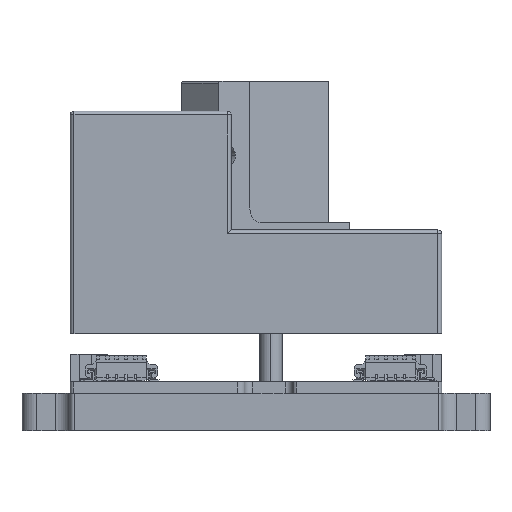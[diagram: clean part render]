
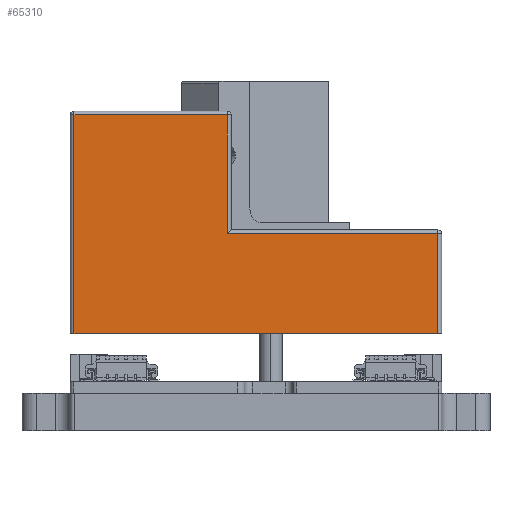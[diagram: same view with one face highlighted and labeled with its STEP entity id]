
A CAD part, left-side view. The second image highlights one B-rep face of the part: STEP entity #65310.
In plain terms, the highlighted planar face has unit normal (-1, 0, 0).
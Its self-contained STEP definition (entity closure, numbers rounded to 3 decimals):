
#331 = CARTESIAN_POINT ( 'NONE',  ( -123.282, -4.826, 52.086 ) ) ;
#1992 = CARTESIAN_POINT ( 'NONE',  ( -123.282, 24.038, 65.586 ) ) ;
#5585 = LINE ( 'NONE', #34320, #65272 ) ;
#5823 = VECTOR ( 'NONE', #15448, 1000. ) ;
#6265 = VECTOR ( 'NONE', #29139, 1000. ) ;
#6337 = DIRECTION ( 'NONE',  ( 0., 0., 1. ) ) ;
#6659 = EDGE_LOOP ( 'NONE', ( #89412, #63593, #83961, #34460, #89749, #48606 ) ) ;
#7197 = DIRECTION ( 'NONE',  ( 0., 1., 0. ) ) ;
#9967 = EDGE_CURVE ( 'NONE', #39570, #58477, #51246, .T. ) ;
#10911 = EDGE_CURVE ( 'NONE', #40462, #82193, #42119, .T. ) ;
#15448 = DIRECTION ( 'NONE',  ( 0., 1., 0. ) ) ;
#18737 = FACE_OUTER_BOUND ( 'NONE', #6659, .T. ) ;
#22926 = VECTOR ( 'NONE', #6337, 1000. ) ;
#25729 = AXIS2_PLACEMENT_3D ( 'NONE', #33748, #62674, #91625 ) ;
#27959 = DIRECTION ( 'NONE',  ( 0., 0., 1. ) ) ;
#29139 = DIRECTION ( 'NONE',  ( 0., 1., 0. ) ) ;
#31003 = EDGE_CURVE ( 'NONE', #58477, #44969, #5585, .T. ) ;
#33748 = CARTESIAN_POINT ( 'NONE',  ( -123.282, -4.826, 63.086 ) ) ;
#34320 = CARTESIAN_POINT ( 'NONE',  ( -123.282, 44.674, 63.086 ) ) ;
#34460 = ORIENTED_EDGE ( 'NONE', *, *, #10911, .T. ) ;
#35862 = EDGE_CURVE ( 'NONE', #40462, #44969, #65096, .T. ) ;
#37300 = VERTEX_POINT ( 'NONE', #1992 ) ;
#37480 = CARTESIAN_POINT ( 'NONE',  ( -123.282, 24.038, 81.586 ) ) ;
#38167 = VECTOR ( 'NONE', #7197, 1000. ) ;
#39570 = VERTEX_POINT ( 'NONE', #37480 ) ;
#40462 = VERTEX_POINT ( 'NONE', #88121 ) ;
#42119 = LINE ( 'NONE', #71117, #22926 ) ;
#43021 = LINE ( 'NONE', #71998, #38167 ) ;
#44969 = VERTEX_POINT ( 'NONE', #82198 ) ;
#47472 = PLANE ( 'NONE',  #25729 ) ;
#48606 = ORIENTED_EDGE ( 'NONE', *, *, #51805, .T. ) ;
#49785 = CARTESIAN_POINT ( 'NONE',  ( -123.282, -4.326, 65.586 ) ) ;
#51246 = LINE ( 'NONE', #80176, #5823 ) ;
#51805 = EDGE_CURVE ( 'NONE', #37300, #39570, #63957, .T. ) ;
#58477 = VERTEX_POINT ( 'NONE', #80620 ) ;
#62674 = DIRECTION ( 'NONE',  ( 1., 0., 0. ) ) ;
#63262 = DIRECTION ( 'NONE',  ( 0., 0., -1. ) ) ;
#63593 = ORIENTED_EDGE ( 'NONE', *, *, #31003, .T. ) ;
#63957 = LINE ( 'NONE', #92900, #66285 ) ;
#65096 = LINE ( 'NONE', #331, #6265 ) ;
#65272 = VECTOR ( 'NONE', #63262, 1000. ) ;
#65310 = ADVANCED_FACE ( 'NONE', ( #18737 ), #47472, .F. ) ;
#66285 = VECTOR ( 'NONE', #27959, 1000. ) ;
#66780 = EDGE_CURVE ( 'NONE', #82193, #37300, #43021, .T. ) ;
#71117 = CARTESIAN_POINT ( 'NONE',  ( -123.282, -4.326, 63.086 ) ) ;
#71998 = CARTESIAN_POINT ( 'NONE',  ( -123.282, 23.538, 65.586 ) ) ;
#80176 = CARTESIAN_POINT ( 'NONE',  ( -123.282, -4.826, 81.586 ) ) ;
#80620 = CARTESIAN_POINT ( 'NONE',  ( -123.282, 44.674, 81.586 ) ) ;
#82193 = VERTEX_POINT ( 'NONE', #49785 ) ;
#82198 = CARTESIAN_POINT ( 'NONE',  ( -123.282, 44.674, 52.086 ) ) ;
#83961 = ORIENTED_EDGE ( 'NONE', *, *, #35862, .F. ) ;
#88121 = CARTESIAN_POINT ( 'NONE',  ( -123.282, -4.326, 52.086 ) ) ;
#89412 = ORIENTED_EDGE ( 'NONE', *, *, #9967, .T. ) ;
#89749 = ORIENTED_EDGE ( 'NONE', *, *, #66780, .T. ) ;
#91625 = DIRECTION ( 'NONE',  ( 0., 0., -1. ) ) ;
#92900 = CARTESIAN_POINT ( 'NONE',  ( -123.282, 24.038, 63.086 ) ) ;
